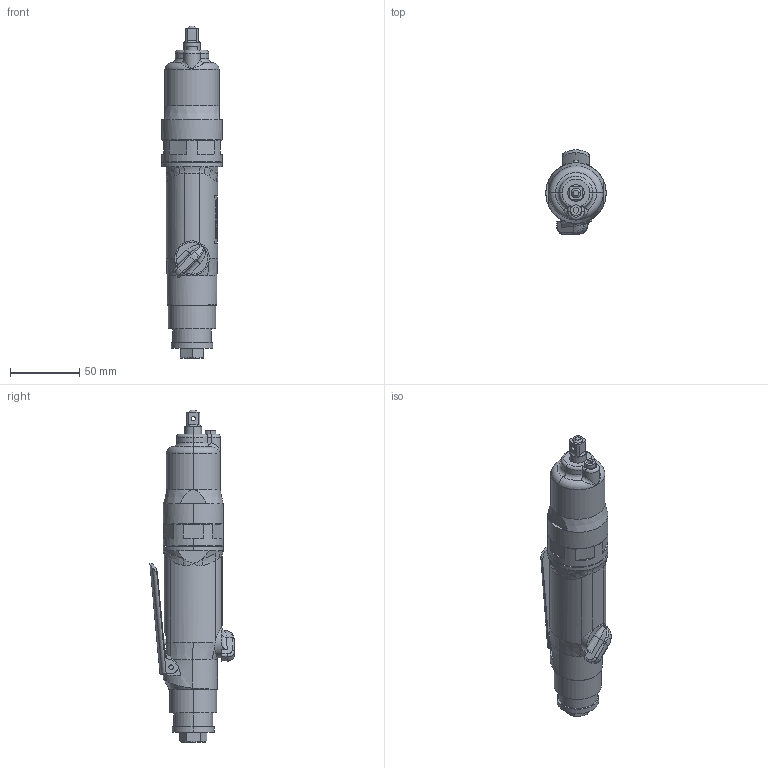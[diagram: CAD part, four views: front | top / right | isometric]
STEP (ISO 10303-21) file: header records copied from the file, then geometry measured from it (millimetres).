
FILE_DESCRIPTION (( 'STEP AP203' ), '1' );
FILE_NAME ('U-410S.STEP', '2006-12-04T00:09:17', ( ' ' ), ( ' ' ), 'SwSTEP 2.0', 'SolidWorks 2003240', '' );
FILE_SCHEMA (( 'CONFIG_CONTROL_DESIGN' ));
Length unit declared in the file: millimetre
Products named in the file (7): PIN_U-410S_蹬怮椔; 4182121_U-410S_蹬怮椔; U-410S; 1974546_U-410S_蹬怮椔; 1914397_U-410S_蹬怮椔; 1910258_U-410S_蹬怮椔; 1961077_U-410S_蹬怮椔
Assembly tree (6 placements, depth 2):
  U-410S
    1910258_U-410S_蹬怮椔
    1914397_U-410S_蹬怮椔
    4182121_U-410S_蹬怮椔
    1974546_U-410S_蹬怮椔
    PIN_U-410S_蹬怮椔
    1961077_U-410S_蹬怮椔
Bounding box: 43.5 x 60.8 x 239.5 mm (x, y, z)
Volume: 254397.7 mm3; surface area: 41634.4 mm2
Topology: 6 solids, 6 shells, 602 faces, 1547 edges, 992 vertices
Faces by surface type: plane 274, cylinder 176, bspline 111, cone 25, torus 14, sphere 2
Entity records: 34666 total; most frequent: CARTESIAN_POINT 20574, ORIENTED_EDGE 3078, DIRECTION 2367, EDGE_CURVE 1539, VERTEX_POINT 992, AXIS2_PLACEMENT_3D 858, VECTOR 651, LINE 651
